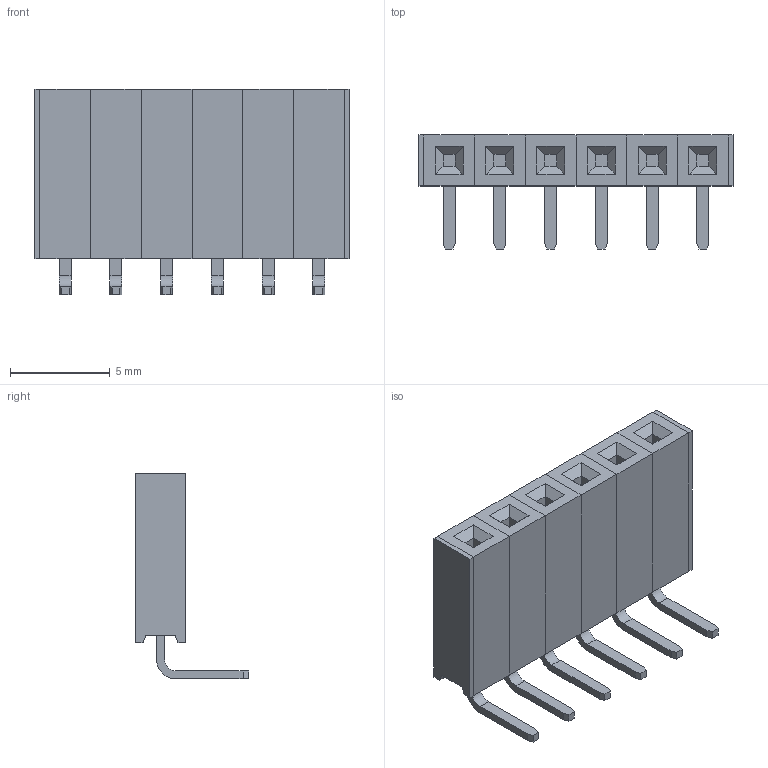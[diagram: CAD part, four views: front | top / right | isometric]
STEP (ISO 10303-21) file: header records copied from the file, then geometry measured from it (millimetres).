
FILE_DESCRIPTION (( 'STEP AP214' ), '1' );
FILE_NAME ('PPTC061LGBN-RC.STEP', '2024-11-26T16:10:46', ( '' ), ( '' ), 'SwSTEP 2.0', 'SolidWorks 2021', '' );
FILE_SCHEMA (( 'AUTOMOTIVE_DESIGN' ));
Length unit declared in the file: millimetre
Products named in the file (3): PPTC061LGBN-RC; PPPC021LGBN-RC_C06; Pin - Tin
Assembly tree (7 placements, depth 2):
  PPTC061LGBN-RC
    PPPC021LGBN-RC_C06
    Pin - Tin  x6
Bounding box: 15.74 x 5.69 x 10.3 mm (x, y, z)
Volume: 334.6 mm3; surface area: 783 mm2
Topology: 14 solids, 14 shells, 206 faces, 492 edges, 320 vertices
Faces by surface type: plane 194, cylinder 12
Entity records: 4271 total; most frequent: CARTESIAN_POINT 718, ORIENTED_EDGE 684, DIRECTION 658, EDGE_CURVE 342, LINE 338, VECTOR 338, VERTEX_POINT 220, AXIS2_PLACEMENT_3D 160
